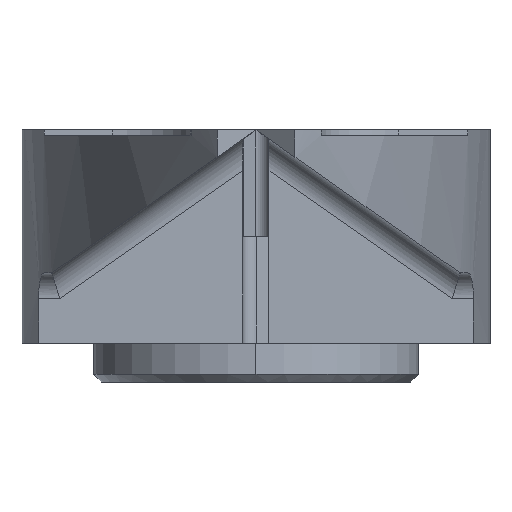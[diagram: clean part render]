
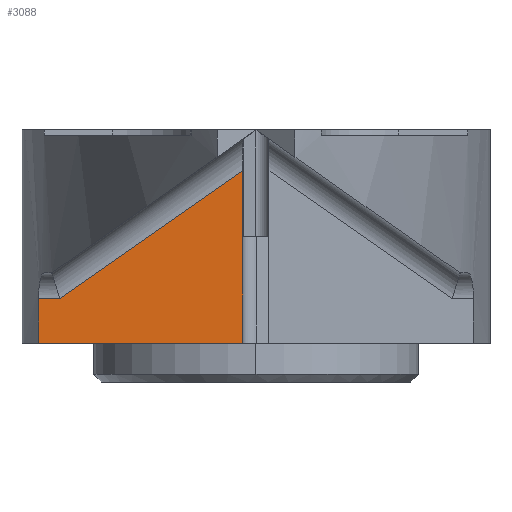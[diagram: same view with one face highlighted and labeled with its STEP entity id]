
A CAD part, left-side view. The second image highlights one B-rep face of the part: STEP entity #3088.
In plain terms, the highlighted planar face has unit normal (-1, 0, 0).
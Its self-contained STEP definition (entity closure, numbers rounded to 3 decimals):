
#1 = VERTEX_POINT ( 'NONE', #3056 ) ;
#43 = EDGE_CURVE ( 'NONE', #1985, #1, #1570, .T. ) ;
#358 = DIRECTION ( 'NONE',  ( 0., 1., 0. ) ) ;
#455 = CARTESIAN_POINT ( 'NONE',  ( -12., 0., -8.2 ) ) ;
#634 = CARTESIAN_POINT ( 'NONE',  ( -12., 8.362, -4.1 ) ) ;
#714 = CARTESIAN_POINT ( 'NONE',  ( -12., 4.431, -6.5 ) ) ;
#778 = PLANE ( 'NONE',  #3420 ) ;
#809 = DIRECTION ( 'NONE',  ( 0., 1., 0. ) ) ;
#866 = LINE ( 'NONE', #455, #2520 ) ;
#980 = DIRECTION ( 'NONE',  ( 0., 0., 1. ) ) ;
#1121 = DIRECTION ( 'NONE',  ( 0., 0., 1. ) ) ;
#1222 = EDGE_LOOP ( 'NONE', ( #1463, #2448, #2659, #2237, #3411 ) ) ;
#1240 = VECTOR ( 'NONE', #980, 1000. ) ;
#1344 = VECTOR ( 'NONE', #358, 1000. ) ;
#1443 = LINE ( 'NONE', #714, #1344 ) ;
#1463 = ORIENTED_EDGE ( 'NONE', *, *, #2648, .T. ) ;
#1570 = LINE ( 'NONE', #1717, #4181 ) ;
#1707 = CARTESIAN_POINT ( 'NONE',  ( -12., 8.362, -8.2 ) ) ;
#1717 = CARTESIAN_POINT ( 'NONE',  ( -12., 0.5, -4.885 ) ) ;
#1954 = CARTESIAN_POINT ( 'NONE',  ( -12., 0.5, -8.2 ) ) ;
#1985 = VERTEX_POINT ( 'NONE', #1954 ) ;
#2237 = ORIENTED_EDGE ( 'NONE', *, *, #4164, .F. ) ;
#2277 = LINE ( 'NONE', #3589, #2740 ) ;
#2343 = EDGE_CURVE ( 'NONE', #3315, #4266, #1443, .T. ) ;
#2386 = CARTESIAN_POINT ( 'NONE',  ( -12., 7.54, -6.5 ) ) ;
#2428 = CARTESIAN_POINT ( 'NONE',  ( -12., -0.286, -8.863 ) ) ;
#2448 = ORIENTED_EDGE ( 'NONE', *, *, #2343, .T. ) ;
#2514 = DIRECTION ( 'NONE',  ( 0., 0., 1. ) ) ;
#2520 = VECTOR ( 'NONE', #809, 1000. ) ;
#2606 = DIRECTION ( 'NONE',  ( 0., 0.819, -0.574 ) ) ;
#2648 = EDGE_CURVE ( 'NONE', #1, #3315, #2277, .T. ) ;
#2659 = ORIENTED_EDGE ( 'NONE', *, *, #3870, .F. ) ;
#2740 = VECTOR ( 'NONE', #2606, 1000. ) ;
#2816 = CARTESIAN_POINT ( 'NONE',  ( -12., 8.362, -6.5 ) ) ;
#2989 = LINE ( 'NONE', #634, #1240 ) ;
#3056 = CARTESIAN_POINT ( 'NONE',  ( -12., 0.5, -1.571 ) ) ;
#3070 = DIRECTION ( 'NONE',  ( -1., 0., 0. ) ) ;
#3088 = ADVANCED_FACE ( 'NONE', ( #4007 ), #778, .T. ) ;
#3227 = VERTEX_POINT ( 'NONE', #1707 ) ;
#3315 = VERTEX_POINT ( 'NONE', #2386 ) ;
#3411 = ORIENTED_EDGE ( 'NONE', *, *, #43, .T. ) ;
#3420 = AXIS2_PLACEMENT_3D ( 'NONE', #2428, #3070, #1121 ) ;
#3589 = CARTESIAN_POINT ( 'NONE',  ( -12., 0.5, -1.571 ) ) ;
#3870 = EDGE_CURVE ( 'NONE', #3227, #4266, #2989, .T. ) ;
#4007 = FACE_OUTER_BOUND ( 'NONE', #1222, .T. ) ;
#4164 = EDGE_CURVE ( 'NONE', #1985, #3227, #866, .T. ) ;
#4181 = VECTOR ( 'NONE', #2514, 1000. ) ;
#4266 = VERTEX_POINT ( 'NONE', #2816 ) ;
